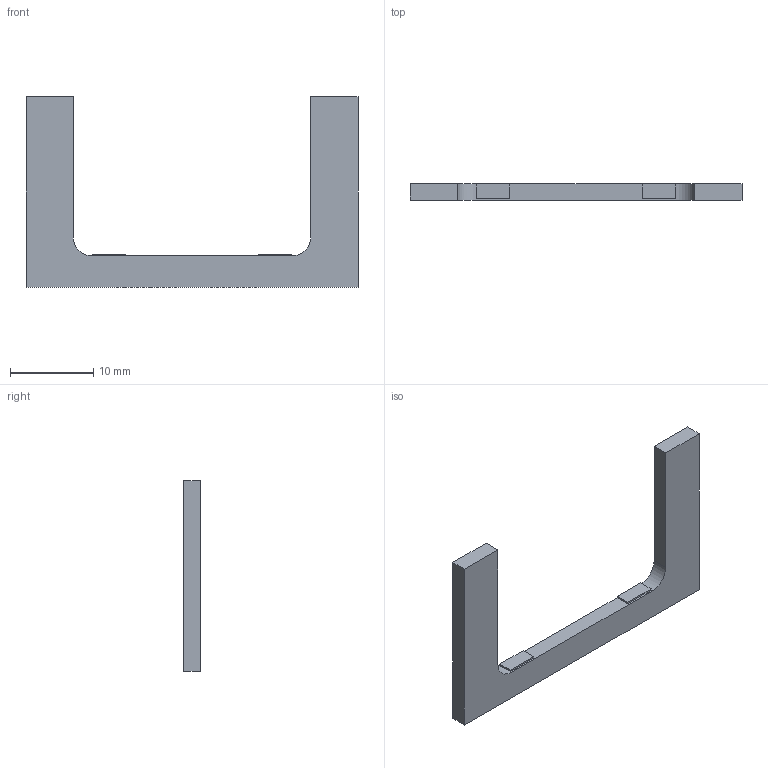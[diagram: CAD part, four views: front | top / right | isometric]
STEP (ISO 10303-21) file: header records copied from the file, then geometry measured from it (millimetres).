
FILE_DESCRIPTION(('Open CASCADE Model'),'2;1');
FILE_NAME('Open CASCADE Shape Model','2026-11-08T19:31:44',('Author'),( 'Open CASCADE'),'Open CASCADE STEP processor 7.8','Open CASCADE 7.8' ,'Unknown');
FILE_SCHEMA(('AUTOMOTIVE_DESIGN { 1 0 10303 214 1 1 1 1 }'));
Length unit declared in the file: millimetre
Products named in the file (1): Open CASCADE STEP translator 7.8 6
Bounding box: 40 x 2 x 23 mm (x, y, z)
Volume: 749.2 mm3; surface area: 1075.8 mm2
Topology: 1 solids, 1 shells, 20 faces, 52 edges, 34 vertices
Faces by surface type: plane 18, cylinder 2
Entity records: 1302 total; most frequent: CARTESIAN_POINT 235, DIRECTION 198, LINE 148, VECTOR 148, ORIENTED_EDGE 104, PCURVE 104, DEFINITIONAL_REPRESENTATION 104, EDGE_CURVE 52
